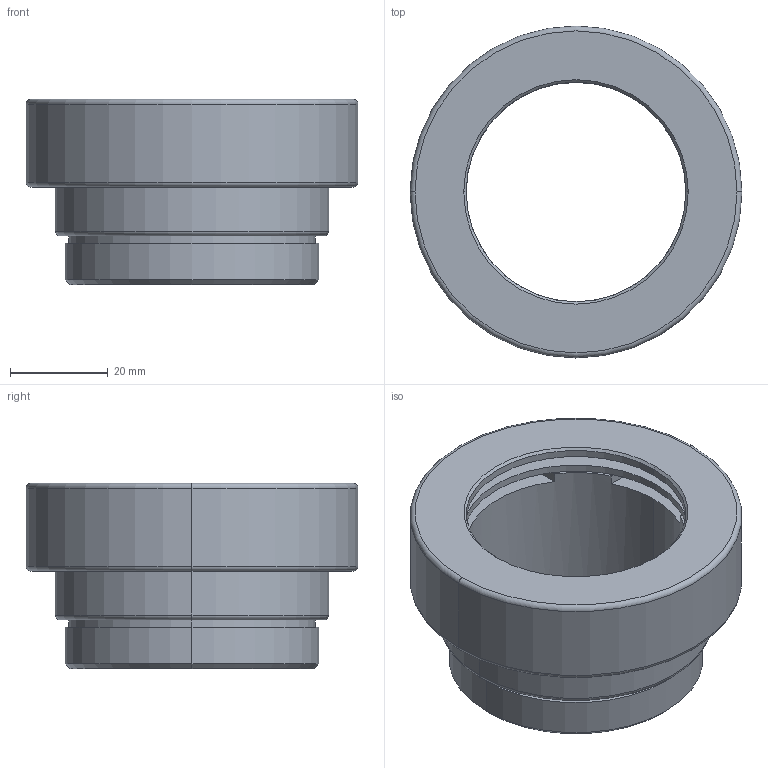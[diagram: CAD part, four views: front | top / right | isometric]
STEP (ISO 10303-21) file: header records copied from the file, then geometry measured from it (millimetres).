
FILE_DESCRIPTION (( 'STEP AP203' ), '1' );
FILE_NAME ('7MMC151A翐醱噩殤.STEP', '2019-12-04T03:17:03', ( '' ), ( '' ), 'SwSTEP 2.0', 'SolidWorks 2018', '' );
FILE_SCHEMA (( 'CONFIG_CONTROL_DESIGN' ));
Length unit declared in the file: millimetre
Products named in the file (1): 7MMC151A翐醱噩殤
Bounding box: 68 x 68 x 38 mm (x, y, z)
Volume: 45475 mm3; surface area: 25798.1 mm2
Topology: 3 solids, 3 shells, 63 faces, 142 edges, 90 vertices
Faces by surface type: cylinder 26, plane 23, cone 8, torus 6
Entity records: 1869 total; most frequent: DIRECTION 350, CARTESIAN_POINT 296, ORIENTED_EDGE 284, AXIS2_PLACEMENT_3D 144, EDGE_CURVE 142, VERTEX_POINT 90, CIRCLE 80, EDGE_LOOP 74
